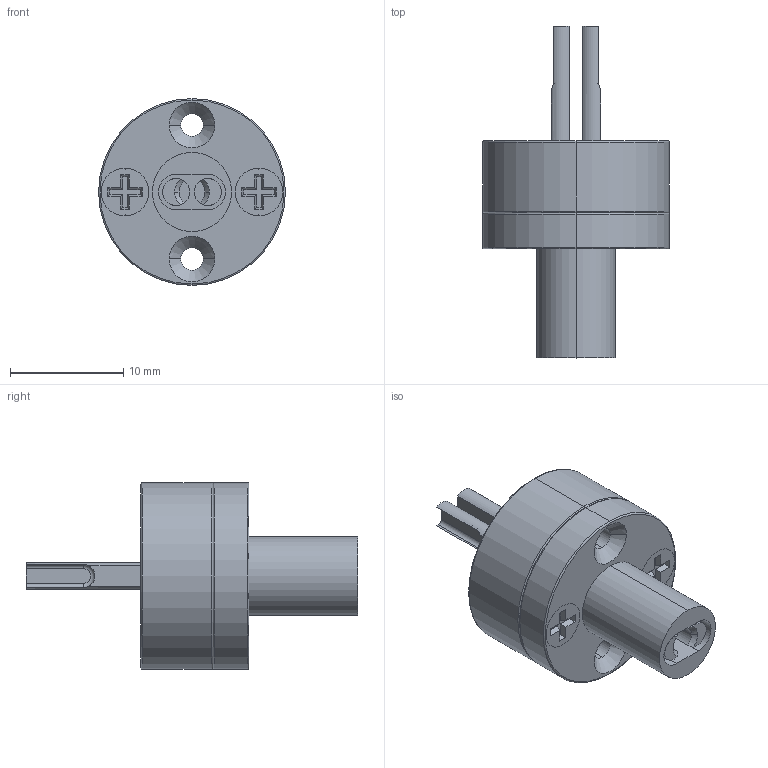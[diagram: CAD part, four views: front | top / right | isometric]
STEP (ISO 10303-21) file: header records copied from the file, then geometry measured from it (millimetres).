
FILE_DESCRIPTION (( 'STEP AP214' ), '1' );
FILE_NAME ('KWP800.STEP', '2025-10-02T09:16:43', ( '' ), ( '' ), 'SwSTEP 2.0', 'SolidWorks 2024', '' );
FILE_SCHEMA (( 'AUTOMOTIVE_DESIGN' ));
Length unit declared in the file: inch
Products named in the file (1): KWP800
Bounding box: 16.51 x 29.34 x 16.51 mm (x, y, z)
Volume: 2262.3 mm3; surface area: 2528.8 mm2
Topology: 6 solids, 6 shells, 151 faces, 376 edges, 242 vertices
Faces by surface type: plane 69, cylinder 52, cone 20, torus 10
Entity records: 6641 total; most frequent: CARTESIAN_POINT 842, DIRECTION 822, ORIENTED_EDGE 752, EDGE_CURVE 376, AXIS2_PLACEMENT_3D 310, VERTEX_POINT 242, LINE 202, VECTOR 202
